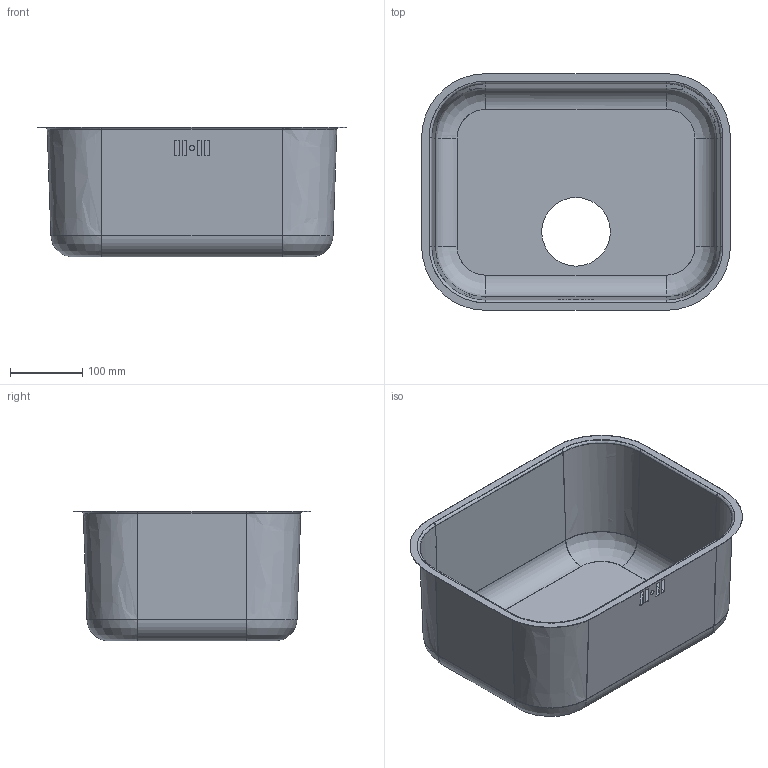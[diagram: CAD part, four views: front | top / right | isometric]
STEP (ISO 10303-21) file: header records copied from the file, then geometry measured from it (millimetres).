
FILE_DESCRIPTION((''),'1');
FILE_NAME('C:/Users/linop/Desktop/UM30.stp','2018-02-26T08:43:51',(''),(''),'Spatial Interop R20 SP1','Kubotek KeyCreator V9.0.3 (16864)',' ');
FILE_SCHEMA(('CONFIG_CONTROL_DESIGN'));
Length unit declared in the file: millimetre
Products named in the file (1): 1
Bounding box: 428 x 328 x 180 mm (x, y, z)
Volume: 228370.6 mm3; surface area: 653819.6 mm2
Topology: 1 solids, 1 shells, 97 faces, 253 edges, 160 vertices
Faces by surface type: bspline 44, plane 32, cylinder 21
Full cylindrical faces by diameter (mm): 95 x1
Entity records: 8453 total; most frequent: CARTESIAN_POINT 6342, ORIENTED_EDGE 504, DIRECTION 277, EDGE_CURVE 252, VERTEX_POINT 160, LINE 123, VECTOR 123, EDGE_LOOP 112
